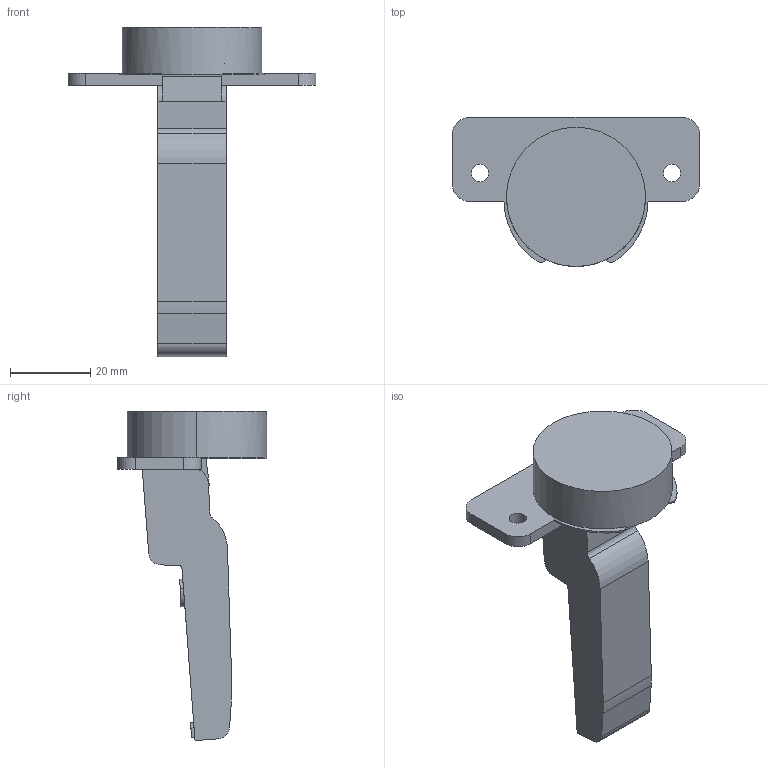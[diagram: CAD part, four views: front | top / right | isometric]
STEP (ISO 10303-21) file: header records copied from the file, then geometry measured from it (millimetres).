
FILE_DESCRIPTION (( 'STEP AP203' ), '1' );
FILE_NAME ('C82B276F-DTC 3D close.STEP', '2024-09-09T06:28:46', ( '微软用户' ), ( '微软中国' ), 'SwSTEP 2.0', 'SolidWorks 2021', '' );
FILE_SCHEMA (( 'CONFIG_CONTROL_DESIGN' ));
Length unit declared in the file: millimetre
Products named in the file (1): C82B276F-DTC 3D close
Bounding box: 61.96 x 37.28 x 82.29 mm (x, y, z)
Volume: 29857.6 mm3; surface area: 9374 mm2
Topology: 1 solids, 1 shells, 69 faces, 189 edges, 126 vertices
Faces by surface type: plane 36, cylinder 31, bspline 2
Entity records: 2298 total; most frequent: CARTESIAN_POINT 423, ORIENTED_EDGE 378, DIRECTION 377, EDGE_CURVE 189, AXIS2_PLACEMENT_3D 128, VERTEX_POINT 126, LINE 121, VECTOR 121
